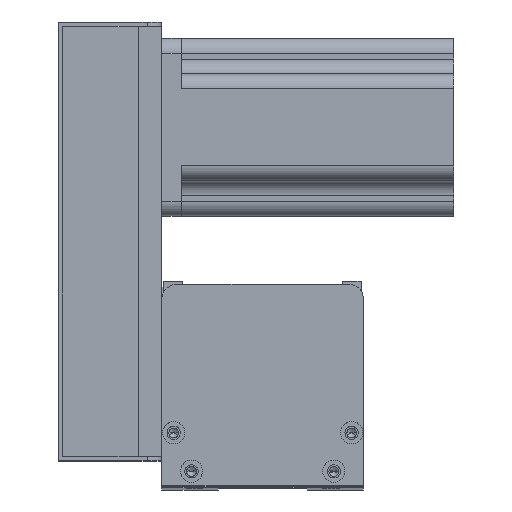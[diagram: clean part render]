
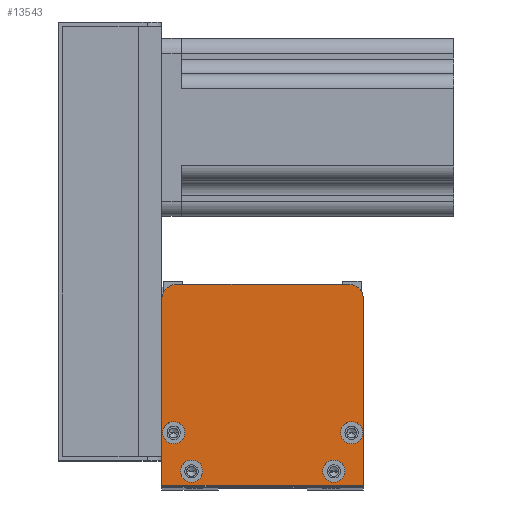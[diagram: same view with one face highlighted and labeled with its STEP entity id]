
A CAD part, top view. The second image highlights one B-rep face of the part: STEP entity #13543.
In plain terms, the highlighted planar face has unit normal (0, 0, 1) as drawn and (0, 0, -1) by its records, which use the part's own axes.
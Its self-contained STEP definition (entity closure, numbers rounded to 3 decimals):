
#121 = PLANE ( 'NONE',  #13276 ) ;
#270 = AXIS2_PLACEMENT_3D ( 'NONE', #6866, #4960, #12996 ) ;
#353 = AXIS2_PLACEMENT_3D ( 'NONE', #20855, #24798, #2208 ) ;
#354 = DIRECTION ( 'NONE',  ( -1., 0., 0. ) ) ;
#821 = DIRECTION ( 'NONE',  ( 0., 0., -1. ) ) ;
#891 = CARTESIAN_POINT ( 'NONE',  ( 0., 63., 0. ) ) ;
#896 = CARTESIAN_POINT ( 'NONE',  ( 67.75, 18., 0. ) ) ;
#933 = DIRECTION ( 'NONE',  ( 0., 0., -1. ) ) ;
#1042 = VERTEX_POINT ( 'NONE', #18785 ) ;
#1232 = CARTESIAN_POINT ( 'NONE',  ( 10., 5., 0. ) ) ;
#1274 = CIRCLE ( 'NONE', #18042, 5. ) ;
#1283 = CARTESIAN_POINT ( 'NONE',  ( 10., 5., 0. ) ) ;
#1288 = VERTEX_POINT ( 'NONE', #6781 ) ;
#2208 = DIRECTION ( 'NONE',  ( -1., 0., 0. ) ) ;
#2829 = VERTEX_POINT ( 'NONE', #10341 ) ;
#2865 = ORIENTED_EDGE ( 'NONE', *, *, #17475, .F. ) ;
#3033 = DIRECTION ( 'NONE',  ( 0., 1., 0. ) ) ;
#3059 = VERTEX_POINT ( 'NONE', #15193 ) ;
#3191 = EDGE_CURVE ( 'NONE', #19537, #20966, #3521, .T. ) ;
#3353 = FACE_OUTER_BOUND ( 'NONE', #24160, .T. ) ;
#3360 = DIRECTION ( 'NONE',  ( -1., 0., 0. ) ) ;
#3521 = CIRCLE ( 'NONE', #4493, 3.75 ) ;
#3764 = VERTEX_POINT ( 'NONE', #24127 ) ;
#3922 = ORIENTED_EDGE ( 'NONE', *, *, #26660, .F. ) ;
#3991 = VERTEX_POINT ( 'NONE', #6374 ) ;
#4259 = DIRECTION ( 'NONE',  ( 0., 0., 1. ) ) ;
#4493 = AXIS2_PLACEMENT_3D ( 'NONE', #1232, #19865, #3360 ) ;
#4584 = EDGE_LOOP ( 'NONE', ( #7179, #16001 ) ) ;
#4848 = ORIENTED_EDGE ( 'NONE', *, *, #7872, .F. ) ;
#4900 = DIRECTION ( 'NONE',  ( -1., 0., 0. ) ) ;
#4960 = DIRECTION ( 'NONE',  ( 0., 0., -1. ) ) ;
#5104 = LINE ( 'NONE', #6889, #25732 ) ;
#5197 = VERTEX_POINT ( 'NONE', #12441 ) ;
#5440 = VERTEX_POINT ( 'NONE', #891 ) ;
#5464 = ORIENTED_EDGE ( 'NONE', *, *, #5882, .F. ) ;
#5882 = EDGE_CURVE ( 'NONE', #3059, #21198, #24625, .T. ) ;
#5890 = ORIENTED_EDGE ( 'NONE', *, *, #16948, .F. ) ;
#6324 = EDGE_LOOP ( 'NONE', ( #21738, #5464 ) ) ;
#6374 = CARTESIAN_POINT ( 'NONE',  ( 68., 0., 0. ) ) ;
#6379 = VECTOR ( 'NONE', #3033, 1000. ) ;
#6422 = CARTESIAN_POINT ( 'NONE',  ( 0., 0., 0. ) ) ;
#6641 = EDGE_CURVE ( 'NONE', #1288, #11819, #11105, .T. ) ;
#6781 = CARTESIAN_POINT ( 'NONE',  ( 60.25, 18., 0. ) ) ;
#6866 = CARTESIAN_POINT ( 'NONE',  ( 64., 18., 0. ) ) ;
#6889 = CARTESIAN_POINT ( 'NONE',  ( 68., 0., 0. ) ) ;
#7179 = ORIENTED_EDGE ( 'NONE', *, *, #6641, .F. ) ;
#7514 = DIRECTION ( 'NONE',  ( -1., 0., 0. ) ) ;
#7544 = AXIS2_PLACEMENT_3D ( 'NONE', #8943, #25015, #354 ) ;
#7872 = EDGE_CURVE ( 'NONE', #3764, #19466, #14303, .T. ) ;
#8023 = LINE ( 'NONE', #21988, #16095 ) ;
#8681 = ORIENTED_EDGE ( 'NONE', *, *, #9403, .T. ) ;
#8840 = CARTESIAN_POINT ( 'NONE',  ( 68., 0., 0. ) ) ;
#8943 = CARTESIAN_POINT ( 'NONE',  ( 4., 18., 0. ) ) ;
#9136 = CIRCLE ( 'NONE', #24533, 3.75 ) ;
#9403 = EDGE_CURVE ( 'NONE', #11571, #2829, #10990, .T. ) ;
#9970 = CIRCLE ( 'NONE', #15736, 3.75 ) ;
#10167 = ORIENTED_EDGE ( 'NONE', *, *, #24888, .F. ) ;
#10341 = CARTESIAN_POINT ( 'NONE',  ( 68., 63., 0. ) ) ;
#10813 = AXIS2_PLACEMENT_3D ( 'NONE', #25391, #21449, #23421 ) ;
#10859 = VECTOR ( 'NONE', #22967, 1000. ) ;
#10990 = CIRCLE ( 'NONE', #16399, 5. ) ;
#11105 = CIRCLE ( 'NONE', #270, 3.75 ) ;
#11157 = DIRECTION ( 'NONE',  ( 0., 0., -1. ) ) ;
#11478 = DIRECTION ( 'NONE',  ( 1., 0., 0. ) ) ;
#11571 = VERTEX_POINT ( 'NONE', #15154 ) ;
#11774 = LINE ( 'NONE', #6422, #10859 ) ;
#11819 = VERTEX_POINT ( 'NONE', #896 ) ;
#12441 = CARTESIAN_POINT ( 'NONE',  ( 0., 0., 0. ) ) ;
#12484 = CARTESIAN_POINT ( 'NONE',  ( 0.25, 18., 0. ) ) ;
#12665 = DIRECTION ( 'NONE',  ( 1., 0., 0. ) ) ;
#12996 = DIRECTION ( 'NONE',  ( -1., 0., 0. ) ) ;
#13219 = LINE ( 'NONE', #8840, #6379 ) ;
#13276 = AXIS2_PLACEMENT_3D ( 'NONE', #16624, #4259, #12665 ) ;
#13285 = ORIENTED_EDGE ( 'NONE', *, *, #22533, .F. ) ;
#13543 = ADVANCED_FACE ( 'NONE', ( #16268, #24613, #15964, #21084, #3353 ), #121, .F. ) ;
#13615 = DIRECTION ( 'NONE',  ( 0., 0., -1. ) ) ;
#13955 = DIRECTION ( 'NONE',  ( -1., 0., 0. ) ) ;
#14303 = CIRCLE ( 'NONE', #10813, 3.75 ) ;
#14310 = EDGE_CURVE ( 'NONE', #11819, #1288, #9136, .T. ) ;
#14881 = DIRECTION ( 'NONE',  ( 0., 0., -1. ) ) ;
#15154 = CARTESIAN_POINT ( 'NONE',  ( 63., 68., 0. ) ) ;
#15193 = CARTESIAN_POINT ( 'NONE',  ( 7.75, 18., 0. ) ) ;
#15242 = DIRECTION ( 'NONE',  ( -1., 0., 0. ) ) ;
#15736 = AXIS2_PLACEMENT_3D ( 'NONE', #1283, #14881, #13955 ) ;
#15759 = CARTESIAN_POINT ( 'NONE',  ( 6.25, 5., 0. ) ) ;
#15818 = ORIENTED_EDGE ( 'NONE', *, *, #26415, .F. ) ;
#15964 = FACE_BOUND ( 'NONE', #19461, .T. ) ;
#16001 = ORIENTED_EDGE ( 'NONE', *, *, #14310, .F. ) ;
#16095 = VECTOR ( 'NONE', #7514, 1000. ) ;
#16268 = FACE_BOUND ( 'NONE', #4584, .T. ) ;
#16336 = EDGE_CURVE ( 'NONE', #5440, #1042, #1274, .T. ) ;
#16399 = AXIS2_PLACEMENT_3D ( 'NONE', #26153, #13615, #21693 ) ;
#16624 = CARTESIAN_POINT ( 'NONE',  ( 0., 0., 0. ) ) ;
#16948 = EDGE_CURVE ( 'NONE', #3991, #2829, #13219, .T. ) ;
#17475 = EDGE_CURVE ( 'NONE', #19466, #3764, #23786, .T. ) ;
#18042 = AXIS2_PLACEMENT_3D ( 'NONE', #19497, #933, #11478 ) ;
#18656 = CIRCLE ( 'NONE', #7544, 3.75 ) ;
#18785 = CARTESIAN_POINT ( 'NONE',  ( 5., 68., 0. ) ) ;
#18994 = CARTESIAN_POINT ( 'NONE',  ( 54.25, 5., 0. ) ) ;
#19433 = CARTESIAN_POINT ( 'NONE',  ( 58., 5., 0. ) ) ;
#19461 = EDGE_LOOP ( 'NONE', ( #15818, #24623 ) ) ;
#19466 = VERTEX_POINT ( 'NONE', #18994 ) ;
#19497 = CARTESIAN_POINT ( 'NONE',  ( 5., 63., 0. ) ) ;
#19537 = VERTEX_POINT ( 'NONE', #22987 ) ;
#19865 = DIRECTION ( 'NONE',  ( 0., 0., -1. ) ) ;
#20855 = CARTESIAN_POINT ( 'NONE',  ( 4., 18., 0. ) ) ;
#20966 = VERTEX_POINT ( 'NONE', #15759 ) ;
#21084 = FACE_BOUND ( 'NONE', #25041, .T. ) ;
#21198 = VERTEX_POINT ( 'NONE', #12484 ) ;
#21257 = CARTESIAN_POINT ( 'NONE',  ( 64., 18., 0. ) ) ;
#21449 = DIRECTION ( 'NONE',  ( 0., 0., -1. ) ) ;
#21693 = DIRECTION ( 'NONE',  ( 1., 0., 0. ) ) ;
#21738 = ORIENTED_EDGE ( 'NONE', *, *, #22962, .F. ) ;
#21988 = CARTESIAN_POINT ( 'NONE',  ( 68., 68., 0. ) ) ;
#22533 = EDGE_CURVE ( 'NONE', #11571, #1042, #8023, .T. ) ;
#22962 = EDGE_CURVE ( 'NONE', #21198, #3059, #18656, .T. ) ;
#22967 = DIRECTION ( 'NONE',  ( 0., -1., 0. ) ) ;
#22987 = CARTESIAN_POINT ( 'NONE',  ( 13.75, 5., 0. ) ) ;
#23421 = DIRECTION ( 'NONE',  ( -1., 0., 0. ) ) ;
#23425 = DIRECTION ( 'NONE',  ( 1., 0., 0. ) ) ;
#23786 = CIRCLE ( 'NONE', #26626, 3.75 ) ;
#24127 = CARTESIAN_POINT ( 'NONE',  ( 61.75, 5., 0. ) ) ;
#24160 = EDGE_LOOP ( 'NONE', ( #10167, #25498, #13285, #8681, #5890, #3922 ) ) ;
#24533 = AXIS2_PLACEMENT_3D ( 'NONE', #21257, #821, #15242 ) ;
#24613 = FACE_BOUND ( 'NONE', #6324, .T. ) ;
#24623 = ORIENTED_EDGE ( 'NONE', *, *, #3191, .F. ) ;
#24625 = CIRCLE ( 'NONE', #353, 3.75 ) ;
#24798 = DIRECTION ( 'NONE',  ( 0., 0., -1. ) ) ;
#24888 = EDGE_CURVE ( 'NONE', #5440, #5197, #11774, .T. ) ;
#25015 = DIRECTION ( 'NONE',  ( 0., 0., -1. ) ) ;
#25041 = EDGE_LOOP ( 'NONE', ( #2865, #4848 ) ) ;
#25391 = CARTESIAN_POINT ( 'NONE',  ( 58., 5., 0. ) ) ;
#25498 = ORIENTED_EDGE ( 'NONE', *, *, #16336, .T. ) ;
#25732 = VECTOR ( 'NONE', #23425, 1000. ) ;
#26153 = CARTESIAN_POINT ( 'NONE',  ( 63., 63., 0. ) ) ;
#26415 = EDGE_CURVE ( 'NONE', #20966, #19537, #9970, .T. ) ;
#26626 = AXIS2_PLACEMENT_3D ( 'NONE', #19433, #11157, #4900 ) ;
#26660 = EDGE_CURVE ( 'NONE', #5197, #3991, #5104, .T. ) ;
